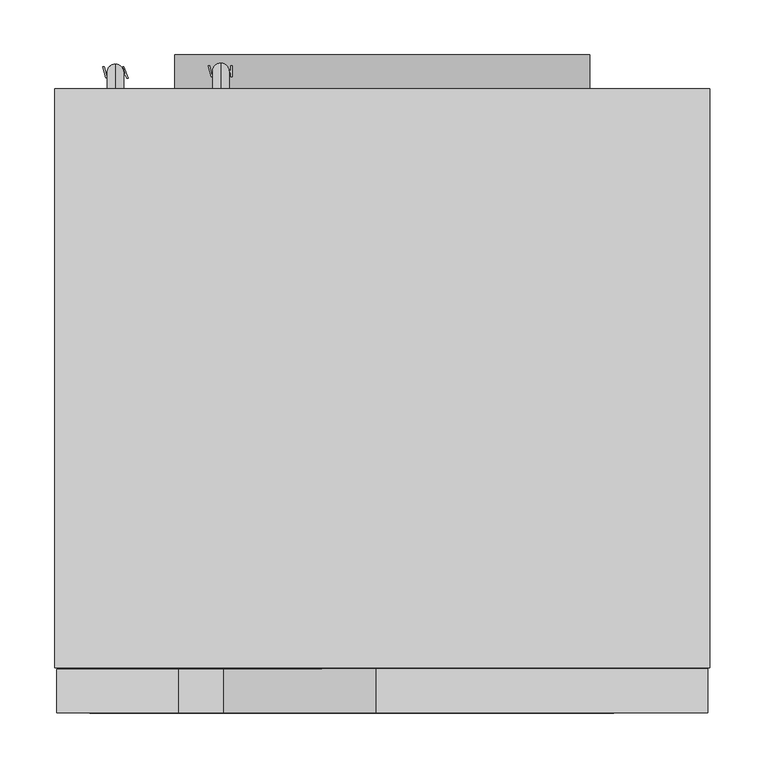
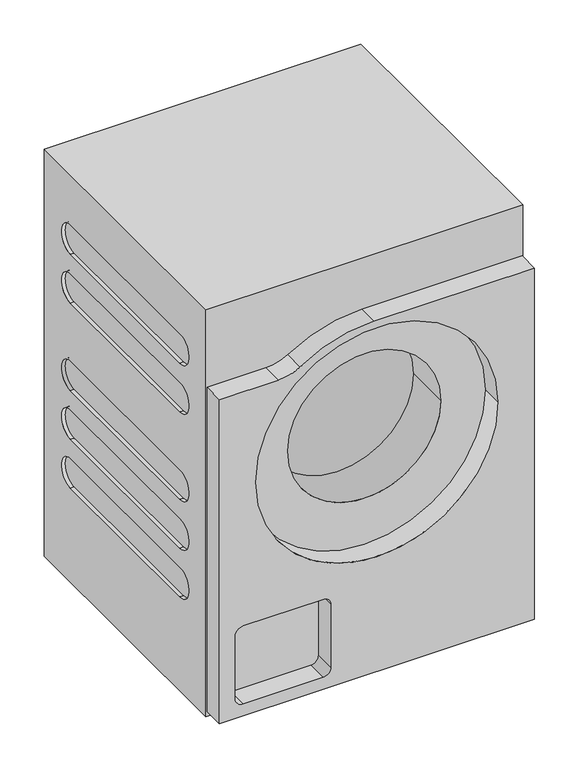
"""IFC4 building model written with IfcOpenShell, lengths in millimetres: proxy geometry, 11811510_NDS_WED035WCS_LW : 11ED0351_NDS_11811510_WED035WCS_LW."""

from ifc_helpers import new_model, si_unit, point, frame, frame_2d, origin, origin_with_axes, place, context, project, spatial, polyline, circle_curve, ellipse_curve, trimmed, segment, composite_curve, outline, extrude, source, transform, mapped, element, save
from ifc_brep_helpers import plane_surface, cylinder_surface, revolved_surface, advanced_brep


def specialty_equipment_e664911a(model_context):
    return source(origin(), model_context, "Body", "SolidModel", [
        extrude(outline(composite_curve([segment(polyline([(663.5, -296.5), (18.0, -296.5), (18.0, 296.5), (717.5, 296.5), (717.5, -5.7577941)]), True, "CONTINUOUS"), segment(trimmed(circle_curve(frame_2d((468.7317583, -5.7577941)), 248.7682417), [point((717.5, -5.7577941))], [point((674.9462734, -144.9023658))], False, "CARTESIAN"), True, "CONTINUOUS"), segment(trimmed(circle_curve(frame_2d((742.0250428, -185.7266361)), 78.5250428), [point((674.9462734, -144.9023658))], [point((663.5, -185.7266361))], True, "CARTESIAN"), True, "CONTINUOUS"), segment(polyline([(663.5, -185.7266361), (663.5, -296.5)]), True, "CONTINUOUS")], self_intersect=False), holes=[composite_curve([segment(trimmed(circle_curve(frame_2d((475.0, 0.0)), 228.0), [point((475.0, -228.0))], [point((475.0, 228.0))], True, "CARTESIAN"), True, "CONTINUOUS"), segment(trimmed(circle_curve(frame_2d((475.0, 0.0)), 228.0), [point((475.0, 228.0))], [point((475.0, -228.0))], True, "CARTESIAN"), True, "CONTINUOUS")], self_intersect=False), composite_curve([segment(polyline([(182.0, -86.5), (57.0, -86.5)]), True, "CONTINUOUS"), segment(trimmed(circle_curve(frame_2d((57.0, -101.5)), 15.0), [point((57.0, -86.5))], [point((42.0, -101.5))], True, "CARTESIAN"), True, "CONTINUOUS"), segment(polyline([(42.0, -101.5), (42.0, -251.5)]), True, "CONTINUOUS"), segment(trimmed(circle_curve(frame_2d((57.0, -251.5)), 15.0), [point((42.0, -251.5))], [point((57.0, -266.5))], True, "CARTESIAN"), True, "CONTINUOUS"), segment(polyline([(57.0, -266.5), (182.0, -266.5)]), True, "CONTINUOUS"), segment(trimmed(circle_curve(frame_2d((182.0, -251.5)), 15.0), [point((182.0, -266.5))], [point((197.0, -251.5))], True, "CARTESIAN"), True, "CONTINUOUS"), segment(polyline([(197.0, -251.5), (197.0, -101.5)]), True, "CONTINUOUS"), segment(trimmed(circle_curve(frame_2d((182.0, -101.5)), 15.0), [point((197.0, -101.5))], [point((182.0, -86.5))], True, "CARTESIAN"), True, "CONTINUOUS")], self_intersect=False)]), frame((0.0, -600.0, 0.0), z_axis=(0.0, 1.0, 0.0), x_axis=(0.0, 0.0, 1.0)), (0.0, 0.0, 1.0), 40.0),
        extrude(outline(composite_curve([segment(trimmed(circle_curve(frame_2d((172.0, 0.0)), 85.0), [point((128.0, -72.7255113))], [point((128.0, 72.7255113))], False, "CARTESIAN"), True, "CONTINUOUS"), segment(polyline([(128.0, 72.7255113), (457.0, 186.7618805)]), True, "CONTINUOUS"), segment(trimmed(circle_curve(frame_2d((486.0, 0.0)), 189.0), [point((457.0, 186.7618805))], [point((457.0, -186.7618805))], False, "CARTESIAN"), True, "CONTINUOUS"), segment(polyline([(457.0, -186.7618805), (128.0, -72.7255113)]), True, "CONTINUOUS")], self_intersect=False)), frame((0.0, -32.0, 0.0), z_axis=(0.0, 1.0, 0.0), x_axis=(0.0, 0.0, 1.0)), (0.0, 0.0, 1.0), 31.0),
        extrude(outline(polyline([(-245.0283197, -21.9198802), (-247.6226621, -13.1308402), (-250.3496859, -21.9195554), (-251.6847859, -21.9195554), (-254.4297172, -11.8631004), (-253.1339679, -11.8631004), (-251.0443144, -20.5032988), (-248.5340813, -11.857379), (-246.6711164, -11.857379), (-244.1552565, -20.5022346), (-242.0681971, -11.8564437), (-240.7754796, -11.8564437), (-243.5175667, -21.9198802), (-245.0283197, -21.9198802)])), frame((0.0, 0.0, 722.0), z_axis=(0.0, 0.0, 1.0), x_axis=(1.0, 0.0, 0.0)), (0.0, 0.0, 1.0), 1.0),
        extrude(outline(polyline([(-239.0721098, -22.0032768), (-240.4069745, -22.0032768), (-236.3935979, -11.9549404), (-235.3188514, -11.9549404), (-231.3155433, -21.9958861), (-232.6216403, -21.9958861), (-233.7882604, -18.865268), (-237.929968, -18.865268), (-239.0721098, -22.0032768)]), holes=[polyline([(-237.4730851, -17.6099926), (-234.256037, -17.6099926), (-235.8835115, -13.2426749), (-237.4730851, -17.6099926)])]), frame((0.0, 0.0, 722.0), z_axis=(0.0, 0.0, 1.0), x_axis=(1.0, 0.0, 0.0)), (0.0, 0.0, 1.0), 1.0),
        extrude(outline(polyline([(-149.0371951, -21.0084005), (-151.6315375, -12.2193606), (-154.3585613, -21.0080758), (-155.6936613, -21.0080758), (-158.4385926, -10.9516208), (-157.1428433, -10.9516208), (-155.0531898, -19.5918192), (-152.5429567, -10.9458994), (-150.6799918, -10.9458994), (-148.1641319, -19.590755), (-146.0770725, -10.9449641), (-144.784355, -10.9449641), (-147.5264421, -21.0084005), (-149.0371951, -21.0084005)])), frame((0.0, 0.0, 728.0), z_axis=(0.0, 0.0, 1.0), x_axis=(1.0, 0.0, 0.0)), (0.0, 0.0, 1.0), 1.0),
        extrude(outline(polyline([(-137.7520367, -21.0), (-137.7520367, -17.5380382), (-139.4320631, -15.9333791), (-143.267056, -20.9969068), (-144.8092352, -20.9969068), (-140.3268814, -15.0786372), (-144.6471582, -10.9521715), (-142.8938795, -10.9521715), (-137.7520367, -15.8633471), (-137.7520367, -10.9502531), (-136.4793974, -10.9502531), (-136.4793974, -21.0), (-137.7520367, -21.0)])), frame((0.0, 0.0, 728.0), z_axis=(0.0, 0.0, 1.0), x_axis=(1.0, 0.0, 0.0)), (0.0, 0.0, 1.0), 1.0),
        advanced_brep(
        [(-243.0, -32.0, 760.5), (-243.0, -32.0, 745.5), (-243.0, -9.5, 760.5), (-243.0, -24.5, 745.5), (-243.0, -9.5, 723.0), (-243.0, -24.5, 723.0)],
        [
            (0, 1, circle_curve(frame((-243.0, -32.0, 753.0), z_axis=(0.0, -1.0, 0.0), x_axis=(0.0, 0.0, -1.0)), 7.5)),
            (1, 0, circle_curve(frame((-243.0, -32.0, 753.0), z_axis=(0.0, -1.0, 0.0), x_axis=(0.0, 0.0, -1.0)), 7.5)),
            (0, 2),
            (2, 3, ellipse_curve(frame((-243.0, -17.0, 753.0), z_axis=(0.0, -0.7071067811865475, 0.7071067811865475), x_axis=(0.0, -0.7071067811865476, -0.7071067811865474)), 10.6066017, 7.5)),
            (3, 1),
            (3, 2, ellipse_curve(frame((-243.0, -17.0, 753.0), z_axis=(0.0, -0.7071067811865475, 0.7071067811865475), x_axis=(0.0, -0.7071067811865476, -0.7071067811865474)), 10.6066017, 7.5)),
            (4, 5, circle_curve(frame((-243.0, -17.0, 723.0), z_axis=(0.0, 0.0, -1.0), x_axis=(0.0, -1.0, 0.0)), 7.5)),
            (5, 4, circle_curve(frame((-243.0, -17.0, 723.0), z_axis=(0.0, 0.0, -1.0), x_axis=(0.0, -1.0, 0.0)), 7.5)),
            (2, 4),
            (5, 3),
        ],
        [
            plane_surface(frame((-243.0, -32.0, 753.0), z_axis=(0.0, -1.0, 0.0), x_axis=(-1.0, 0.0, 0.0))),
            cylinder_surface(frame((-243.0, -32.0, 753.0), z_axis=(0.0, -1.0, 0.0), x_axis=(0.0, 0.0, -1.0)), 7.5),
            plane_surface(frame((-243.0, -17.0, 723.0), z_axis=(0.0, 0.0, -1.0), x_axis=(-1.0, 0.0, 0.0))),
            cylinder_surface(frame((-243.0, -17.0, 753.0), z_axis=(0.0, 0.0, 1.0), x_axis=(0.0, -1.0, 0.0)), 7.5),
        ],
        [
            (0, [[1, 2]]),
            (1, [[-1, 3, 4, 5]]),
            (1, [[-2, -5, 6, -3]]),
            (2, [[7, 8]]),
            (3, [[-4, 9, -8, 10]]),
            (3, [[-6, -10, -7, -9]]),
        ],
    ),
        advanced_brep(
        [(-147.0, -32.0, 766.5), (-147.0, -32.0, 751.5), (-147.0, -8.5, 766.5), (-147.0, -23.5, 751.5), (-147.0, -8.5, 729.0), (-147.0, -23.5, 729.0)],
        [
            (0, 1, circle_curve(frame((-147.0, -32.0, 759.0), z_axis=(0.0, -1.0, 0.0), x_axis=(0.0, 0.0, -1.0)), 7.5)),
            (1, 0, circle_curve(frame((-147.0, -32.0, 759.0), z_axis=(0.0, -1.0, 0.0), x_axis=(0.0, 0.0, -1.0)), 7.5)),
            (0, 2),
            (2, 3, ellipse_curve(frame((-147.0, -16.0, 759.0), z_axis=(0.0, -0.70710678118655, 0.707106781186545), x_axis=(0.0, -0.7071067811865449, -0.70710678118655)), 10.6066017, 7.5)),
            (3, 1),
            (3, 2, ellipse_curve(frame((-147.0, -16.0, 759.0), z_axis=(0.0, -0.70710678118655, 0.707106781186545), x_axis=(0.0, -0.7071067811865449, -0.70710678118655)), 10.6066017, 7.5)),
            (4, 5, circle_curve(frame((-147.0, -16.0, 729.0), z_axis=(0.0, 0.0, -1.0), x_axis=(0.0, -1.0, 0.0)), 7.5)),
            (5, 4, circle_curve(frame((-147.0, -16.0, 729.0), z_axis=(0.0, 0.0, -1.0), x_axis=(0.0, -1.0, 0.0)), 7.5)),
            (2, 4),
            (5, 3),
        ],
        [
            plane_surface(frame((-147.0, -32.0, 759.0), z_axis=(0.0, -1.0, 0.0), x_axis=(-1.0, 0.0, 0.0))),
            cylinder_surface(frame((-147.0, -32.0, 759.0), z_axis=(0.0, -1.0, 0.0), x_axis=(0.0, 0.0, -1.0)), 7.5),
            plane_surface(frame((-147.0, -16.0, 729.0), z_axis=(0.0, 0.0, -1.0), x_axis=(-1.0, 0.0, 0.0))),
            cylinder_surface(frame((-147.0, -16.0, 759.0), z_axis=(0.0, 0.0, 1.0), x_axis=(0.0, -1.0, 0.0)), 7.5),
        ],
        [
            (0, [[1, 2]]),
            (1, [[-1, 3, 4, 5]]),
            (1, [[-2, -5, 6, -3]]),
            (2, [[7, 8]]),
            (3, [[-4, 9, -8, 10]]),
            (3, [[-6, -10, -7, -9]]),
        ],
    ),
        extrude(outline(polyline([(-24.1489694, 55.8141378), (-30.1201763, 55.8141378), (-30.1201763, 52.8005704), (-24.4569949, 52.8005704), (-24.4569949, 51.521084), (-30.1201763, 51.521084), (-30.1201763, 48.2496698), (-23.9879713, 48.2496698), (-23.9879713, 46.9701834), (-31.3464231, 46.9701834), (-31.3464231, 57.0455767), (-24.1489694, 57.0455767), (-24.1489694, 55.8141378)])), frame((-91.0, 0.0, 0.0), z_axis=(1.0, 0.0, 0.0), x_axis=(0.0, 1.0, 0.0)), (0.0, 0.0, 1.0), 1.0),
        extrude(outline(polyline([(-20.8531587, 57.0429653), (-20.8531587, 48.2519801), (-15.8267296, 48.2519801), (-15.8267296, 46.9971234), (-22.1029105, 46.9971234), (-22.1029105, 57.0429653), (-20.8531587, 57.0429653)])), frame((-91.0, 0.0, 0.0), z_axis=(1.0, 0.0, 0.0), x_axis=(0.0, 1.0, 0.0)), (0.0, 0.0, 1.0), 1.0),
        extrude(outline(composite_curve([segment(trimmed(circle_curve(frame_2d((-24.5, 52.0)), 7.5), [point((-24.5, 44.5))], [point((-24.5, 59.5))], False, "CARTESIAN"), True, "CONTINUOUS"), segment(trimmed(circle_curve(frame_2d((-24.5, 52.0)), 7.5), [point((-24.5, 59.5))], [point((-24.5, 44.5))], False, "CARTESIAN"), True, "CONTINUOUS")], self_intersect=False)), frame((-121.0, 0.0, 0.0), z_axis=(1.0, 0.0, 0.0), x_axis=(0.0, 1.0, 0.0)), (0.0, 0.0, 1.0), 30.0),
        extrude(outline(polyline([(-157.0, -17.0), (-121.0, -17.0), (-121.0, -32.0), (-157.0, -32.0), (-157.0, -17.0)])), frame((0.0, 0.0, 38.5), z_axis=(0.0, 0.0, 1.0), x_axis=(1.0, 0.0, 0.0)), (0.0, 0.0, 1.0), 27.0),
        advanced_brep(
        [(298.0, -32.0, 818.0), (-298.0, -32.0, 818.0), (-298.0, -559.0, 818.0), (298.0, -559.0, 818.0), (298.0, -32.0, 8.0), (298.0, -559.0, 8.0), (-298.0, -559.0, 8.0), (-298.0, -32.0, 8.0), (-298.0, -117.0, 253.0), (-298.0, -474.0, 253.0), (-298.0, -474.0, 195.0), (-298.0, -117.0, 195.0), (-298.0, -117.0, 350.0), (-298.0, -474.0, 350.0), (-298.0, -474.0, 292.0), (-298.0, -117.0, 292.0), (-298.0, -474.0, 563.0), (-298.0, -117.0, 563.0), (-298.0, -117.0, 621.0), (-298.0, -474.0, 621.0), (-298.0, -117.0, 718.0), (-298.0, -474.0, 718.0), (-298.0, -474.0, 660.0), (-298.0, -117.0, 660.0), (-298.0, -117.0, 447.0), (-298.0, -474.0, 447.0), (-298.0, -474.0, 389.0), (-298.0, -117.0, 389.0), (144.0, -559.0, 482.0), (-144.0, -559.0, 482.0), (298.0, -474.0, 253.0), (298.0, -117.0, 253.0), (298.0, -117.0, 195.0), (298.0, -474.0, 195.0), (298.0, -474.0, 350.0), (298.0, -117.0, 350.0), (298.0, -117.0, 292.0), (298.0, -474.0, 292.0), (298.0, -117.0, 563.0), (298.0, -474.0, 563.0), (298.0, -474.0, 621.0), (298.0, -117.0, 621.0), (298.0, -474.0, 718.0), (298.0, -117.0, 718.0), (298.0, -117.0, 660.0), (298.0, -474.0, 660.0), (298.0, -474.0, 447.0), (298.0, -117.0, 447.0), (298.0, -117.0, 389.0), (298.0, -474.0, 389.0), (291.0, -117.0, 253.0), (291.0, -474.0, 253.0), (291.0, -474.0, 195.0), (291.0, -117.0, 195.0), (291.0, -117.0, 350.0), (291.0, -474.0, 350.0), (291.0, -474.0, 292.0), (291.0, -117.0, 292.0), (291.0, -474.0, 563.0), (291.0, -117.0, 563.0), (291.0, -117.0, 621.0), (291.0, -474.0, 621.0), (291.0, -117.0, 718.0), (291.0, -474.0, 718.0), (291.0, -474.0, 660.0), (291.0, -117.0, 660.0), (-291.0, -117.0, 253.0), (-291.0, -117.0, 195.0), (-291.0, -474.0, 195.0), (-291.0, -474.0, 253.0), (-291.0, -117.0, 350.0), (-291.0, -117.0, 292.0), (-291.0, -474.0, 292.0), (-291.0, -474.0, 350.0), (-291.0, -474.0, 563.0), (-291.0, -474.0, 621.0), (-291.0, -117.0, 621.0), (-291.0, -117.0, 563.0), (-291.0, -117.0, 718.0), (-291.0, -117.0, 660.0), (-291.0, -474.0, 660.0), (-291.0, -474.0, 718.0), (-144.0, -471.0, 482.0), (144.0, -471.0, 482.0), (240.0, -148.0, 482.0), (-240.0, -148.0, 482.0), (240.0, -471.0, 482.0), (-240.0, -471.0, 482.0), (291.0, -117.0, 447.0), (291.0, -474.0, 447.0), (291.0, -474.0, 389.0), (291.0, -117.0, 389.0), (-291.0, -117.0, 447.0), (-291.0, -117.0, 389.0), (-291.0, -474.0, 389.0), (-291.0, -474.0, 447.0)],
        [
            (0, 1),
            (1, 2),
            (2, 3),
            (3, 0),
            (4, 5),
            (5, 6),
            (6, 7),
            (7, 4),
            (0, 4),
            (7, 1),
            (6, 2),
            (8, 9),
            (9, 10, circle_curve(frame((-298.0, -474.0, 224.0), z_axis=(1.0, 0.0, 0.0), x_axis=(0.0, 0.0, 1.0)), 29.0)),
            (10, 11),
            (11, 8, circle_curve(frame((-298.0, -117.0, 224.0), z_axis=(1.0, 0.0, 0.0), x_axis=(0.0, 0.0, 1.0)), 29.0)),
            (12, 13),
            (13, 14, circle_curve(frame((-298.0, -474.0, 321.0), z_axis=(1.0, 0.0, 0.0), x_axis=(0.0, 0.0, 1.0)), 29.0)),
            (14, 15),
            (15, 12, circle_curve(frame((-298.0, -117.0, 321.0), z_axis=(1.0, 0.0, 0.0), x_axis=(0.0, 0.0, 1.0)), 29.0)),
            (16, 17),
            (17, 18, circle_curve(frame((-298.0, -117.0, 592.0), z_axis=(1.0, 0.0, 0.0), x_axis=(0.0, 0.0, 1.0)), 29.0)),
            (18, 19),
            (19, 16, circle_curve(frame((-298.0, -474.0, 592.0), z_axis=(1.0, 0.0, 0.0), x_axis=(0.0, 0.0, 1.0)), 29.0)),
            (20, 21),
            (21, 22, circle_curve(frame((-298.0, -474.0, 689.0), z_axis=(1.0, 0.0, 0.0), x_axis=(0.0, 0.0, 1.0)), 29.0)),
            (22, 23),
            (23, 20, circle_curve(frame((-298.0, -117.0, 689.0), z_axis=(1.0, 0.0, 0.0), x_axis=(0.0, 0.0, 1.0)), 29.0)),
            (24, 25),
            (25, 26, circle_curve(frame((-298.0, -474.0, 418.0), z_axis=(1.0, 0.0, 0.0), x_axis=(0.0, 0.0, -1.0)), 29.0)),
            (26, 27),
            (27, 24, circle_curve(frame((-298.0, -117.0, 418.0), z_axis=(1.0, 0.0, 0.0), x_axis=(0.0, 0.0, -1.0)), 29.0)),
            (5, 3),
            (28, 29, circle_curve(frame((0.0, -559.0, 482.0), z_axis=(0.0, 1.0, 0.0), x_axis=(-1.0, 0.0, 0.0)), 144.0)),
            (29, 28, circle_curve(frame((0.0, -559.0, 482.0), z_axis=(0.0, 1.0, 0.0), x_axis=(-1.0, 0.0, 0.0)), 144.0)),
            (30, 31),
            (31, 32, circle_curve(frame((298.0, -117.0, 224.0), z_axis=(-1.0, 0.0, 0.0), x_axis=(0.0, 0.0, 1.0)), 29.0)),
            (32, 33),
            (33, 30, circle_curve(frame((298.0, -474.0, 224.0), z_axis=(-1.0, 0.0, 0.0), x_axis=(0.0, 0.0, 1.0)), 29.0)),
            (34, 35),
            (35, 36, circle_curve(frame((298.0, -117.0, 321.0), z_axis=(-1.0, 0.0, 0.0), x_axis=(0.0, 0.0, 1.0)), 29.0)),
            (36, 37),
            (37, 34, circle_curve(frame((298.0, -474.0, 321.0), z_axis=(-1.0, 0.0, 0.0), x_axis=(0.0, 0.0, 1.0)), 29.0)),
            (38, 39),
            (39, 40, circle_curve(frame((298.0, -474.0, 592.0), z_axis=(-1.0, 0.0, 0.0), x_axis=(0.0, 0.0, 1.0)), 29.0)),
            (40, 41),
            (41, 38, circle_curve(frame((298.0, -117.0, 592.0), z_axis=(-1.0, 0.0, 0.0), x_axis=(0.0, 0.0, 1.0)), 29.0)),
            (42, 43),
            (43, 44, circle_curve(frame((298.0, -117.0, 689.0), z_axis=(-1.0, 0.0, 0.0), x_axis=(0.0, 0.0, 1.0)), 29.0)),
            (44, 45),
            (45, 42, circle_curve(frame((298.0, -474.0, 689.0), z_axis=(-1.0, 0.0, 0.0), x_axis=(0.0, 0.0, 1.0)), 29.0)),
            (46, 47),
            (47, 48, circle_curve(frame((298.0, -117.0, 418.0), z_axis=(-1.0, 0.0, 0.0), x_axis=(0.0, 0.0, -1.0)), 29.0)),
            (48, 49),
            (49, 46, circle_curve(frame((298.0, -474.0, 418.0), z_axis=(-1.0, 0.0, 0.0), x_axis=(0.0, 0.0, -1.0)), 29.0)),
            (50, 51),
            (51, 52, circle_curve(frame((291.0, -474.0, 224.0), z_axis=(1.0, 0.0, 0.0), x_axis=(0.0, 0.0, 1.0)), 29.0)),
            (52, 53),
            (53, 50, circle_curve(frame((291.0, -117.0, 224.0), z_axis=(1.0, 0.0, 0.0), x_axis=(0.0, 0.0, 1.0)), 29.0)),
            (54, 55),
            (55, 56, circle_curve(frame((291.0, -474.0, 321.0), z_axis=(1.0, 0.0, 0.0), x_axis=(0.0, 0.0, 1.0)), 29.0)),
            (56, 57),
            (57, 54, circle_curve(frame((291.0, -117.0, 321.0), z_axis=(1.0, 0.0, 0.0), x_axis=(0.0, 0.0, 1.0)), 29.0)),
            (58, 59),
            (59, 60, circle_curve(frame((291.0, -117.0, 592.0), z_axis=(1.0, 0.0, 0.0), x_axis=(0.0, 0.0, 1.0)), 29.0)),
            (60, 61),
            (61, 58, circle_curve(frame((291.0, -474.0, 592.0), z_axis=(1.0, 0.0, 0.0), x_axis=(0.0, 0.0, 1.0)), 29.0)),
            (62, 63),
            (63, 64, circle_curve(frame((291.0, -474.0, 689.0), z_axis=(1.0, 0.0, 0.0), x_axis=(0.0, 0.0, 1.0)), 29.0)),
            (64, 65),
            (65, 62, circle_curve(frame((291.0, -117.0, 689.0), z_axis=(1.0, 0.0, 0.0), x_axis=(0.0, 0.0, 1.0)), 29.0)),
            (50, 31),
            (30, 51),
            (33, 52),
            (32, 53),
            (54, 35),
            (34, 55),
            (37, 56),
            (36, 57),
            (58, 39),
            (38, 59),
            (41, 60),
            (40, 61),
            (62, 43),
            (42, 63),
            (45, 64),
            (44, 65),
            (66, 67, circle_curve(frame((-291.0, -117.0, 224.0), z_axis=(-1.0, 0.0, 0.0), x_axis=(0.0, 0.0, 1.0)), 29.0)),
            (67, 68),
            (68, 69, circle_curve(frame((-291.0, -474.0, 224.0), z_axis=(-1.0, 0.0, 0.0), x_axis=(0.0, 0.0, 1.0)), 29.0)),
            (69, 66),
            (70, 71, circle_curve(frame((-291.0, -117.0, 321.0), z_axis=(-1.0, 0.0, 0.0), x_axis=(0.0, 0.0, 1.0)), 29.0)),
            (71, 72),
            (72, 73, circle_curve(frame((-291.0, -474.0, 321.0), z_axis=(-1.0, 0.0, 0.0), x_axis=(0.0, 0.0, 1.0)), 29.0)),
            (73, 70),
            (74, 75, circle_curve(frame((-291.0, -474.0, 592.0), z_axis=(-1.0, 0.0, 0.0), x_axis=(0.0, 0.0, 1.0)), 29.0)),
            (75, 76),
            (76, 77, circle_curve(frame((-291.0, -117.0, 592.0), z_axis=(-1.0, 0.0, 0.0), x_axis=(0.0, 0.0, 1.0)), 29.0)),
            (77, 74),
            (78, 79, circle_curve(frame((-291.0, -117.0, 689.0), z_axis=(-1.0, 0.0, 0.0), x_axis=(0.0, 0.0, 1.0)), 29.0)),
            (79, 80),
            (80, 81, circle_curve(frame((-291.0, -474.0, 689.0), z_axis=(-1.0, 0.0, 0.0), x_axis=(0.0, 0.0, 1.0)), 29.0)),
            (81, 78),
            (69, 9),
            (8, 66),
            (68, 10),
            (67, 11),
            (73, 13),
            (12, 70),
            (72, 14),
            (71, 15),
            (77, 17),
            (16, 74),
            (76, 18),
            (75, 19),
            (81, 21),
            (20, 78),
            (80, 22),
            (79, 23),
            (82, 29),
            (28, 83),
            (83, 82, circle_curve(frame((0.0, -471.0, 482.0), z_axis=(0.0, 1.0, 0.0), x_axis=(-1.0, 0.0, 0.0)), 144.0)),
            (82, 83, circle_curve(frame((0.0, -471.0, 482.0), z_axis=(0.0, 1.0, 0.0), x_axis=(-1.0, 0.0, 0.0)), 144.0)),
            (84, 85, circle_curve(frame((0.0, -148.0, 482.0), z_axis=(0.0, -1.0, 0.0), x_axis=(-1.0, 0.0, 0.0)), 240.0)),
            (85, 84, circle_curve(frame((0.0, -148.0, 482.0), z_axis=(0.0, -1.0, 0.0), x_axis=(-1.0, 0.0, 0.0)), 240.0)),
            (86, 87, circle_curve(frame((0.0, -471.0, 482.0), z_axis=(0.0, 1.0, 0.0), x_axis=(-1.0, 0.0, 0.0)), 240.0)),
            (87, 86, circle_curve(frame((0.0, -471.0, 482.0), z_axis=(0.0, 1.0, 0.0), x_axis=(-1.0, 0.0, 0.0)), 240.0)),
            (85, 87),
            (86, 84),
            (88, 89),
            (89, 90, circle_curve(frame((291.0, -474.0, 418.0), z_axis=(1.0, 0.0, 0.0), x_axis=(0.0, 0.0, -1.0)), 29.0)),
            (90, 91),
            (91, 88, circle_curve(frame((291.0, -117.0, 418.0), z_axis=(1.0, 0.0, 0.0), x_axis=(0.0, 0.0, -1.0)), 29.0)),
            (88, 47),
            (46, 89),
            (49, 90),
            (48, 91),
            (92, 93, circle_curve(frame((-291.0, -117.0, 418.0), z_axis=(-1.0, 0.0, 0.0), x_axis=(0.0, 0.0, -1.0)), 29.0)),
            (93, 94),
            (94, 95, circle_curve(frame((-291.0, -474.0, 418.0), z_axis=(-1.0, 0.0, 0.0), x_axis=(0.0, 0.0, -1.0)), 29.0)),
            (95, 92),
            (95, 25),
            (24, 92),
            (94, 26),
            (93, 27),
        ],
        [
            plane_surface(frame((-298.0, -32.0, 818.0), z_axis=(0.0, 0.0, 1.0), x_axis=(-1.0, 0.0, 0.0))),
            plane_surface(frame((-298.0, -32.0, 8.0), z_axis=(0.0, 0.0, -1.0), x_axis=(1.0, 0.0, 0.0))),
            plane_surface(frame((298.0, -32.0, 818.0), z_axis=(0.0, 1.0, 0.0), x_axis=(0.0, 0.0, -1.0))),
            plane_surface(frame((-298.0, -32.0, 818.0), z_axis=(-1.0, 0.0, 0.0), x_axis=(0.0, 0.0, -1.0))),
            plane_surface(frame((-298.0, -559.0, 818.0), z_axis=(0.0, -1.0, 0.0), x_axis=(0.0, 0.0, -1.0))),
            plane_surface(frame((298.0, -559.0, 818.0), z_axis=(1.0, 0.0, 0.0), x_axis=(0.0, 0.0, -1.0))),
            plane_surface(frame((291.0, -474.0, 253.0), z_axis=(1.0, 0.0, 0.0), x_axis=(0.0, 1.0, 0.0))),
            plane_surface(frame((298.0, -117.0, 253.0), z_axis=(0.0, 0.0, -1.0), x_axis=(-1.0, 0.0, 0.0))),
            revolved_surface(polyline([(298.0, -474.0, 253.0), (291.0, -474.0, 253.0)]), (291.0, -474.0, 224.0), (1.0, 0.0, 0.0)),
            plane_surface(frame((298.0, -474.0, 195.0), z_axis=(0.0, 0.0, 1.0), x_axis=(-1.0, 0.0, 0.0))),
            revolved_surface(polyline([(298.0, -117.0, 253.0), (291.0, -117.0, 253.0)]), (291.0, -117.0, 224.0), (1.0, 0.0, 0.0)),
            plane_surface(frame((298.0, -117.0, 350.0), z_axis=(0.0, 0.0, -1.0), x_axis=(-1.0, 0.0, 0.0))),
            revolved_surface(polyline([(298.0, -474.0, 350.0), (291.0, -474.0, 350.0)]), (298.0, -474.0, 321.0), (1.0, 0.0, 0.0)),
            plane_surface(frame((298.0, -474.0, 292.0), z_axis=(0.0, 0.0, 1.0), x_axis=(-1.0, 0.0, 0.0))),
            revolved_surface(polyline([(298.0, -117.0, 350.0), (291.0, -117.0, 350.0)]), (298.0, -117.0, 321.0), (1.0, 0.0, 0.0)),
            plane_surface(frame((298.0, -474.0, 563.0), z_axis=(0.0, 0.0, 1.0), x_axis=(-1.0, 0.0, 0.0))),
            revolved_surface(polyline([(298.0, -117.0, 621.0), (291.0, -117.0, 621.0)]), (298.0, -117.0, 592.0), (1.0, 0.0, 0.0)),
            plane_surface(frame((298.0, -117.0, 621.0), z_axis=(0.0, 0.0, -1.0), x_axis=(-1.0, 0.0, 0.0))),
            revolved_surface(polyline([(298.0, -474.0, 621.0), (291.0, -474.0, 621.0)]), (298.0, -474.0, 592.0), (1.0, 0.0, 0.0)),
            plane_surface(frame((298.0, -117.0, 718.0), z_axis=(0.0, 0.0, -1.0), x_axis=(-1.0, 0.0, 0.0))),
            revolved_surface(polyline([(298.0, -474.0, 718.0), (291.0, -474.0, 718.0)]), (298.0, -474.0, 689.0), (1.0, 0.0, 0.0)),
            plane_surface(frame((298.0, -474.0, 660.0), z_axis=(0.0, 0.0, 1.0), x_axis=(-1.0, 0.0, 0.0))),
            revolved_surface(polyline([(298.0, -117.0, 718.0), (291.0, -117.0, 718.0)]), (298.0, -117.0, 689.0), (1.0, 0.0, 0.0)),
            plane_surface(frame((-291.0, -474.0, 253.0), z_axis=(-1.0, 0.0, 0.0), x_axis=(0.0, -1.0, 0.0))),
            plane_surface(frame((-291.0, -117.0, 253.0), z_axis=(0.0, 0.0, -1.0), x_axis=(-1.0, 0.0, 0.0))),
            revolved_surface(polyline([(-291.0, -474.0, 253.0), (-298.0, -474.0, 253.0)]), (-298.0, -474.0, 224.0), (1.0, 0.0, 0.0)),
            plane_surface(frame((-291.0, -474.0, 195.0), z_axis=(0.0, 0.0, 1.0), x_axis=(-1.0, 0.0, 0.0))),
            revolved_surface(polyline([(-291.0, -117.0, 253.0), (-298.0, -117.0, 253.0)]), (-298.0, -117.0, 224.0), (1.0, 0.0, 0.0)),
            plane_surface(frame((-291.0, -117.0, 350.0), z_axis=(0.0, 0.0, -1.0), x_axis=(-1.0, 0.0, 0.0))),
            revolved_surface(polyline([(-291.0, -474.0, 350.0), (-298.0, -474.0, 350.0)]), (-298.0, -474.0, 321.0), (1.0, 0.0, 0.0)),
            plane_surface(frame((-291.0, -474.0, 292.0), z_axis=(0.0, 0.0, 1.0), x_axis=(-1.0, 0.0, 0.0))),
            revolved_surface(polyline([(-291.0, -117.0, 350.0), (-298.0, -117.0, 350.0)]), (-298.0, -117.0, 321.0), (1.0, 0.0, 0.0)),
            plane_surface(frame((-291.0, -474.0, 563.0), z_axis=(0.0, 0.0, 1.0), x_axis=(-1.0, 0.0, 0.0))),
            revolved_surface(polyline([(-291.0, -117.0, 621.0), (-298.0, -117.0, 621.0)]), (-298.0, -117.0, 592.0), (1.0, 0.0, 0.0)),
            plane_surface(frame((-291.0, -117.0, 621.0), z_axis=(0.0, 0.0, -1.0), x_axis=(-1.0, 0.0, 0.0))),
            revolved_surface(polyline([(-291.0, -474.0, 621.0), (-298.0, -474.0, 621.0)]), (-298.0, -474.0, 592.0), (1.0, 0.0, 0.0)),
            plane_surface(frame((-291.0, -117.0, 718.0), z_axis=(0.0, 0.0, -1.0), x_axis=(-1.0, 0.0, 0.0))),
            revolved_surface(polyline([(-291.0, -474.0, 718.0), (-298.0, -474.0, 718.0)]), (-298.0, -474.0, 689.0), (1.0, 0.0, 0.0)),
            plane_surface(frame((-291.0, -474.0, 660.0), z_axis=(0.0, 0.0, 1.0), x_axis=(-1.0, 0.0, 0.0))),
            revolved_surface(polyline([(-291.0, -117.0, 718.0), (-298.0, -117.0, 718.0)]), (-298.0, -117.0, 689.0), (1.0, 0.0, 0.0)),
            revolved_surface(polyline([(-144.0, -471.0, 482.0), (-144.0, -559.0, 482.0)]), (0.0, -559.0, 482.0), (0.0, 1.0, 0.0)),
            plane_surface(frame((-240.0, -148.0, 482.0), z_axis=(0.0, -1.0, 0.0), x_axis=(0.0, 0.0, 1.0))),
            plane_surface(frame((-240.0, -471.0, 482.0), z_axis=(0.0, 1.0, 0.0), x_axis=(0.0, 0.0, -1.0))),
            revolved_surface(polyline([(-240.0, -148.0, 482.0), (-240.0, -471.0, 482.0)]), (0.0, -471.0, 482.0), (0.0, 1.0, 0.0)),
            plane_surface(frame((291.0, -117.0, 389.0), z_axis=(1.0, 0.0, 0.0), x_axis=(0.0, -1.0, 0.0))),
            plane_surface(frame((291.0, -474.0, 447.0), z_axis=(0.0, 0.0, -1.0), x_axis=(1.0, 0.0, 0.0))),
            revolved_surface(polyline([(291.0, -474.0, 389.0), (298.0, -474.0, 389.0)]), (308.0, -474.0, 418.0), (-1.0, 0.0, 0.0)),
            plane_surface(frame((291.0, -117.0, 389.0), z_axis=(0.0, 0.0, 1.0), x_axis=(1.0, 0.0, 0.0))),
            revolved_surface(polyline([(291.0, -117.0, 389.0), (298.0, -117.0, 389.0)]), (308.0, -117.0, 418.0), (-1.0, 0.0, 0.0)),
            plane_surface(frame((-291.0, -117.0, 389.0), z_axis=(-1.0, 0.0, 0.0), x_axis=(0.0, 1.0, 0.0))),
            plane_surface(frame((-308.0, -474.0, 447.0), z_axis=(0.0, 0.0, -1.0), x_axis=(1.0, 0.0, 0.0))),
            revolved_surface(polyline([(-298.0, -474.0, 389.0), (-291.0, -474.0, 389.0)]), (-291.0, -474.0, 418.0), (-1.0, 0.0, 0.0)),
            plane_surface(frame((-308.0, -117.0, 389.0), z_axis=(0.0, 0.0, 1.0), x_axis=(1.0, 0.0, 0.0))),
            revolved_surface(polyline([(-298.0, -117.0, 389.0), (-291.0, -117.0, 389.0)]), (-291.0, -117.0, 418.0), (-1.0, 0.0, 0.0)),
        ],
        [
            (0, [[1, 2, 3, 4]]),
            (1, [[5, 6, 7, 8]]),
            (2, [[-1, 9, -8, 10]]),
            (3, [[-2, -10, -7, 11], [12, 13, 14, 15], [16, 17, 18, 19], [20, 21, 22, 23], [24, 25, 26, 27], [28, 29, 30, 31]]),
            (4, [[-3, -11, -6, 32], [33, 34]]),
            (5, [[-4, -32, -5, -9], [35, 36, 37, 38], [39, 40, 41, 42], [43, 44, 45, 46], [47, 48, 49, 50], [51, 52, 53, 54]]),
            (6, [[55, 56, 57, 58]]),
            (6, [[59, 60, 61, 62]]),
            (6, [[63, 64, 65, 66]]),
            (6, [[67, 68, 69, 70]]),
            (7, [[-55, 71, -35, 72]]),
            (8, [[-56, -72, -38, 73]]),
            (9, [[-57, -73, -37, 74]]),
            (10, [[-58, -74, -36, -71]]),
            (11, [[-59, 75, -39, 76]]),
            (12, [[-60, -76, -42, 77]]),
            (13, [[-61, -77, -41, 78]]),
            (14, [[-62, -78, -40, -75]]),
            (15, [[-63, 79, -43, 80]]),
            (16, [[-64, -80, -46, 81]]),
            (17, [[-65, -81, -45, 82]]),
            (18, [[-66, -82, -44, -79]]),
            (19, [[-67, 83, -47, 84]]),
            (20, [[-68, -84, -50, 85]]),
            (21, [[-69, -85, -49, 86]]),
            (22, [[-70, -86, -48, -83]]),
            (23, [[87, 88, 89, 90]]),
            (23, [[91, 92, 93, 94]]),
            (23, [[95, 96, 97, 98]]),
            (23, [[99, 100, 101, 102]]),
            (24, [[-90, 103, -12, 104]]),
            (25, [[-89, 105, -13, -103]]),
            (26, [[-88, 106, -14, -105]]),
            (27, [[-87, -104, -15, -106]]),
            (28, [[-94, 107, -16, 108]]),
            (29, [[-93, 109, -17, -107]]),
            (30, [[-92, 110, -18, -109]]),
            (31, [[-91, -108, -19, -110]]),
            (32, [[-98, 111, -20, 112]]),
            (33, [[-97, 113, -21, -111]]),
            (34, [[-96, 114, -22, -113]]),
            (35, [[-95, -112, -23, -114]]),
            (36, [[-102, 115, -24, 116]]),
            (37, [[-101, 117, -25, -115]]),
            (38, [[-100, 118, -26, -117]]),
            (39, [[-99, -116, -27, -118]]),
            (40, [[119, -33, 120, 121]]),
            (40, [[-119, 122, -120, -34]]),
            (41, [[123, 124]]),
            (42, [[125, 126], [-121, -122]]),
            (43, [[-124, 127, -125, 128]]),
            (43, [[-123, -128, -126, -127]]),
            (44, [[129, 130, 131, 132]]),
            (45, [[-129, 133, -51, 134]]),
            (46, [[-130, -134, -54, 135]]),
            (47, [[-131, -135, -53, 136]]),
            (48, [[-132, -136, -52, -133]]),
            (49, [[137, 138, 139, 140]]),
            (50, [[-140, 141, -28, 142]]),
            (51, [[-139, 143, -29, -141]]),
            (52, [[-138, 144, -30, -143]]),
            (53, [[-137, -142, -31, -144]]),
        ],
    ),
        extrude(outline(composite_curve([segment(trimmed(circle_curve(frame_2d((-267.5, -61.0)), 20.0), [point((-247.5, -61.0))], [point((-287.5, -61.0))], False, "CARTESIAN"), True, "CONTINUOUS"), segment(trimmed(circle_curve(frame_2d((-267.5, -61.0)), 20.0), [point((-287.5, -61.0))], [point((-247.5, -61.0))], False, "CARTESIAN"), True, "CONTINUOUS")], self_intersect=False)), origin_with_axes(), (0.0, 0.0, 1.0), 8.0),
        extrude(outline(composite_curve([segment(trimmed(circle_curve(frame_2d((267.5, -61.0)), 20.0), [point((287.5, -61.0))], [point((247.5, -61.0))], False, "CARTESIAN"), True, "CONTINUOUS"), segment(trimmed(circle_curve(frame_2d((267.5, -61.0)), 20.0), [point((247.5, -61.0))], [point((287.5, -61.0))], False, "CARTESIAN"), True, "CONTINUOUS")], self_intersect=False)), origin_with_axes(), (0.0, 0.0, 1.0), 8.0),
        extrude(outline(composite_curve([segment(trimmed(circle_curve(frame_2d((267.5, -531.0)), 20.0), [point((287.5, -531.0))], [point((247.5, -531.0))], False, "CARTESIAN"), True, "CONTINUOUS"), segment(trimmed(circle_curve(frame_2d((267.5, -531.0)), 20.0), [point((247.5, -531.0))], [point((287.5, -531.0))], False, "CARTESIAN"), True, "CONTINUOUS")], self_intersect=False)), origin_with_axes(), (0.0, 0.0, 1.0), 8.0),
        extrude(outline(composite_curve([segment(trimmed(circle_curve(frame_2d((-267.5, -531.0)), 20.0), [point((-247.5, -531.0))], [point((-287.5, -531.0))], False, "CARTESIAN"), True, "CONTINUOUS"), segment(trimmed(circle_curve(frame_2d((-267.5, -531.0)), 20.0), [point((-287.5, -531.0))], [point((-247.5, -531.0))], False, "CARTESIAN"), True, "CONTINUOUS")], self_intersect=False)), origin_with_axes(), (0.0, 0.0, 1.0), 8.0),
    ])


if __name__ == "__main__":
    model = new_model("IFC4")
    model_context = context("Model", 3, world=origin())
    ifc_project = project(units=[si_unit("LENGTHUNIT", "METRE", prefix="MILLI")], contexts=[model_context])
    site = spatial("IfcSite", under=ifc_project)
    building = spatial("IfcBuilding", under=site)
    placement = place(None, origin())
    specialty_equipment_shape = specialty_equipment_e664911a(model_context)
    element("IfcBuildingElementProxy", 1, Name="11811510_NDS_WED035WCS_LW : 11ED0351_NDS_11811510_WED035WCS_LW", ObjectType="11811510_NDS_WED035WCS_LW : 11ED0351_NDS_11811510_WED035WCS_LW", at=placement, inside=building, context=model_context, shape_type="MappedRepresentation", body=[
        mapped(specialty_equipment_shape, transform((0.0, 0.0, 0.0), x_axis=(1.0, 0.0, 0.0), y_axis=(0.0, 1.0, 0.0), z_axis=(0.0, 0.0, 1.0))),
    ])
    save(model, "model.ifc")
